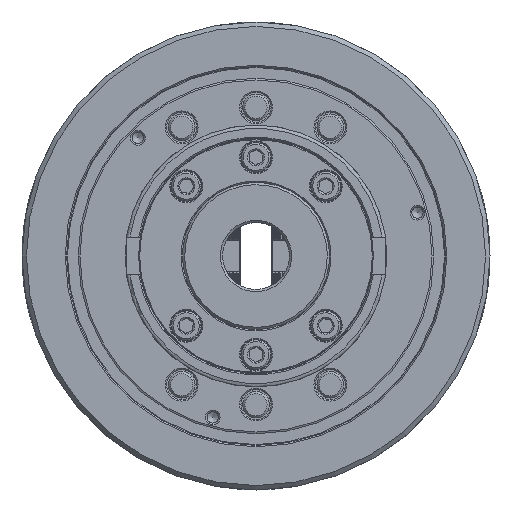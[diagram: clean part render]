
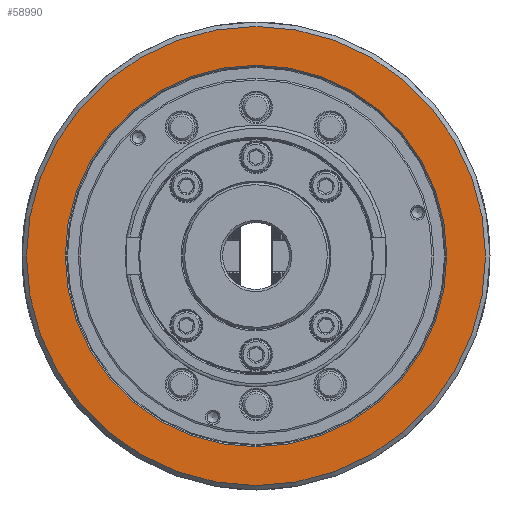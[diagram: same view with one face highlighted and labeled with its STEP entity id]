
A CAD part, left-side view. The second image highlights one B-rep face of the part: STEP entity #58990.
In plain terms, the highlighted planar face has unit normal (-1, 0, 0).
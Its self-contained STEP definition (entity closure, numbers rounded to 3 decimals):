
#1819 = AXIS2_PLACEMENT_3D ( 'NONE', #9401, #48097, #52682 ) ;
#7972 = VERTEX_POINT ( 'NONE', #12990 ) ;
#9401 = CARTESIAN_POINT ( 'NONE',  ( -91., 0., 0. ) ) ;
#12990 = CARTESIAN_POINT ( 'NONE',  ( -91., 0., -103. ) ) ;
#13591 = EDGE_CURVE ( 'NONE', #76269, #76269, #60291, .T. ) ;
#13796 = CARTESIAN_POINT ( 'NONE',  ( -91., 0., 0. ) ) ;
#16238 = DIRECTION ( 'NONE',  ( 1., 0., 0. ) ) ;
#17018 = EDGE_LOOP ( 'NONE', ( #52656 ) ) ;
#23219 = AXIS2_PLACEMENT_3D ( 'NONE', #23318, #16238, #47886 ) ;
#23318 = CARTESIAN_POINT ( 'NONE',  ( -91., -85.6, 0. ) ) ;
#27504 = FACE_OUTER_BOUND ( 'NONE', #17018, .T. ) ;
#32117 = DIRECTION ( 'NONE',  ( 0., 0., -1. ) ) ;
#34180 = FACE_BOUND ( 'NONE', #49894, .T. ) ;
#37769 = AXIS2_PLACEMENT_3D ( 'NONE', #13796, #58736, #32117 ) ;
#41769 = CIRCLE ( 'NONE', #37769, 103. ) ;
#47484 = PLANE ( 'NONE',  #23219 ) ;
#47886 = DIRECTION ( 'NONE',  ( 0., 0., -1. ) ) ;
#48097 = DIRECTION ( 'NONE',  ( 1., 0., 0. ) ) ;
#49894 = EDGE_LOOP ( 'NONE', ( #81835 ) ) ;
#52656 = ORIENTED_EDGE ( 'NONE', *, *, #69915, .F. ) ;
#52682 = DIRECTION ( 'NONE',  ( 0., 0., -1. ) ) ;
#58736 = DIRECTION ( 'NONE',  ( 1., 0., 0. ) ) ;
#58990 = ADVANCED_FACE ( 'NONE', ( #27504, #34180 ), #47484, .F. ) ;
#60291 = CIRCLE ( 'NONE', #1819, 85.6 ) ;
#69915 = EDGE_CURVE ( 'NONE', #7972, #7972, #41769, .T. ) ;
#76269 = VERTEX_POINT ( 'NONE', #77518 ) ;
#77518 = CARTESIAN_POINT ( 'NONE',  ( -91., 0., -85.6 ) ) ;
#81835 = ORIENTED_EDGE ( 'NONE', *, *, #13591, .T. ) ;
